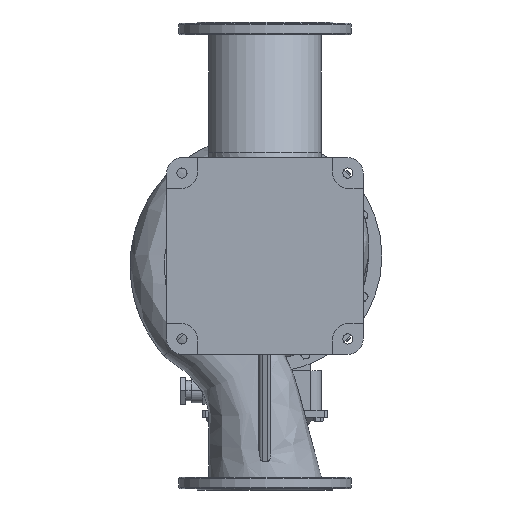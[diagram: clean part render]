
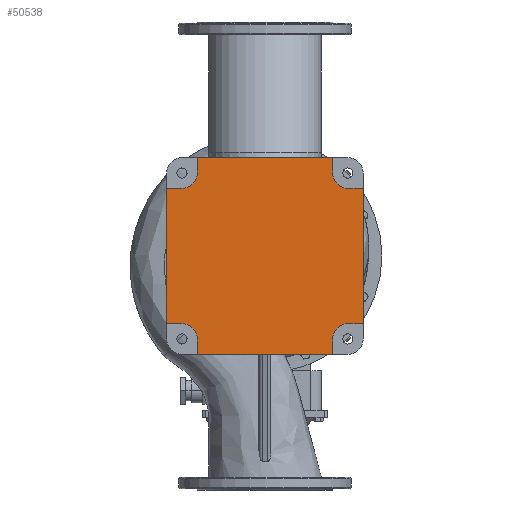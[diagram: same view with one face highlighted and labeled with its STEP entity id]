
A CAD part, front view. The second image highlights one B-rep face of the part: STEP entity #50538.
In plain terms, the highlighted planar face has unit normal (0, -1, 0).
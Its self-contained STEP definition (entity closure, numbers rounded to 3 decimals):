
#628 = ORIENTED_EDGE ( 'NONE', *, *, #48137, .T. ) ;
#1054 = VECTOR ( 'NONE', #72842, 1000. ) ;
#1511 = ORIENTED_EDGE ( 'NONE', *, *, #42875, .T. ) ;
#2208 = DIRECTION ( 'NONE',  ( 1., 0., 0. ) ) ;
#2602 = AXIS2_PLACEMENT_3D ( 'NONE', #38694, #74151, #44284 ) ;
#3545 = CARTESIAN_POINT ( 'NONE',  ( -159., -295., 231. ) ) ;
#3991 = CARTESIAN_POINT ( 'NONE',  ( -195., -295., 195. ) ) ;
#5533 = DIRECTION ( 'NONE',  ( 0., 0., 1. ) ) ;
#5739 = VECTOR ( 'NONE', #18462, 1000. ) ;
#6377 = LINE ( 'NONE', #10080, #1054 ) ;
#6434 = ORIENTED_EDGE ( 'NONE', *, *, #60873, .T. ) ;
#7128 = DIRECTION ( 'NONE',  ( 0., 0., 1. ) ) ;
#8721 = VERTEX_POINT ( 'NONE', #45168 ) ;
#9106 = LINE ( 'NONE', #70019, #22528 ) ;
#10080 = CARTESIAN_POINT ( 'NONE',  ( 159., -295., 195. ) ) ;
#10247 = VERTEX_POINT ( 'NONE', #24062 ) ;
#10409 = CARTESIAN_POINT ( 'NONE',  ( 159., -295., -231. ) ) ;
#10846 = CARTESIAN_POINT ( 'NONE',  ( -159., -295., -231. ) ) ;
#13482 = CARTESIAN_POINT ( 'NONE',  ( -195., -295., -195. ) ) ;
#14079 = CARTESIAN_POINT ( 'NONE',  ( -231., -295., 159. ) ) ;
#15239 = ORIENTED_EDGE ( 'NONE', *, *, #68084, .T. ) ;
#15261 = ORIENTED_EDGE ( 'NONE', *, *, #68279, .T. ) ;
#15402 = VERTEX_POINT ( 'NONE', #10846 ) ;
#15449 = DIRECTION ( 'NONE',  ( -1., 0., 0. ) ) ;
#15549 = DIRECTION ( 'NONE',  ( 0., 1., 0. ) ) ;
#16239 = DIRECTION ( 'NONE',  ( -1., 0., 0. ) ) ;
#16707 = AXIS2_PLACEMENT_3D ( 'NONE', #3991, #34617, #5533 ) ;
#16891 = VECTOR ( 'NONE', #42317, 1000. ) ;
#17966 = VECTOR ( 'NONE', #57354, 1000. ) ;
#18462 = DIRECTION ( 'NONE',  ( 0., 0., 1. ) ) ;
#18543 = AXIS2_PLACEMENT_3D ( 'NONE', #13482, #19433, #7128 ) ;
#18799 = DIRECTION ( 'NONE',  ( 1., 0., 0. ) ) ;
#19433 = DIRECTION ( 'NONE',  ( 0., 1., 0. ) ) ;
#19688 = ORIENTED_EDGE ( 'NONE', *, *, #25675, .T. ) ;
#19831 = VERTEX_POINT ( 'NONE', #29592 ) ;
#20037 = AXIS2_PLACEMENT_3D ( 'NONE', #50620, #15549, #63351 ) ;
#22528 = VECTOR ( 'NONE', #15449, 1000. ) ;
#22805 = ORIENTED_EDGE ( 'NONE', *, *, #60034, .T. ) ;
#23219 = CARTESIAN_POINT ( 'NONE',  ( 159., -295., -195. ) ) ;
#24009 = EDGE_CURVE ( 'NONE', #36432, #34105, #70799, .T. ) ;
#24062 = CARTESIAN_POINT ( 'NONE',  ( -159., -295., -195. ) ) ;
#25158 = CARTESIAN_POINT ( 'NONE',  ( 159., -295., -231. ) ) ;
#25591 = VERTEX_POINT ( 'NONE', #10409 ) ;
#25675 = EDGE_CURVE ( 'NONE', #32633, #19831, #76444, .T. ) ;
#25945 = LINE ( 'NONE', #25158, #46877 ) ;
#26125 = CARTESIAN_POINT ( 'NONE',  ( 231., -295., 159. ) ) ;
#26728 = CIRCLE ( 'NONE', #2602, 36. ) ;
#27483 = DIRECTION ( 'NONE',  ( 0., 0., -1. ) ) ;
#27629 = CIRCLE ( 'NONE', #51786, 36. ) ;
#28239 = CARTESIAN_POINT ( 'NONE',  ( 195., -295., 159. ) ) ;
#29276 = DIRECTION ( 'NONE',  ( 0., 0., -1. ) ) ;
#29592 = CARTESIAN_POINT ( 'NONE',  ( 195., -295., 159. ) ) ;
#29713 = CARTESIAN_POINT ( 'NONE',  ( 195., -295., -195. ) ) ;
#32097 = DIRECTION ( 'NONE',  ( 0., 0., 1. ) ) ;
#32446 = LINE ( 'NONE', #56755, #61608 ) ;
#32633 = VERTEX_POINT ( 'NONE', #26125 ) ;
#33145 = EDGE_LOOP ( 'NONE', ( #628, #15261, #50539, #43152, #66854, #76596, #43779, #19688, #46446, #6434, #44570, #54361, #15239, #22805, #50078, #1511 ) ) ;
#34105 = VERTEX_POINT ( 'NONE', #62538 ) ;
#34617 = DIRECTION ( 'NONE',  ( 0., 1., 0. ) ) ;
#34756 = VECTOR ( 'NONE', #60956, 1000. ) ;
#35325 = EDGE_CURVE ( 'NONE', #48899, #56017, #27629, .T. ) ;
#35635 = VERTEX_POINT ( 'NONE', #14079 ) ;
#35949 = CARTESIAN_POINT ( 'NONE',  ( 159., -295., -195. ) ) ;
#36432 = VERTEX_POINT ( 'NONE', #44902 ) ;
#36672 = CARTESIAN_POINT ( 'NONE',  ( 195., -295., -159. ) ) ;
#38272 = VERTEX_POINT ( 'NONE', #38324 ) ;
#38324 = CARTESIAN_POINT ( 'NONE',  ( -195., -295., 159. ) ) ;
#38410 = CIRCLE ( 'NONE', #16707, 36. ) ;
#38694 = CARTESIAN_POINT ( 'NONE',  ( 195., -295., 195. ) ) ;
#40015 = CARTESIAN_POINT ( 'NONE',  ( 195., -295., -159. ) ) ;
#41619 = CARTESIAN_POINT ( 'NONE',  ( -231., -295., -159. ) ) ;
#42317 = DIRECTION ( 'NONE',  ( 0., 0., 1. ) ) ;
#42875 = EDGE_CURVE ( 'NONE', #69249, #62773, #32446, .T. ) ;
#42986 = EDGE_CURVE ( 'NONE', #25591, #48899, #61427, .T. ) ;
#43152 = ORIENTED_EDGE ( 'NONE', *, *, #42986, .T. ) ;
#43424 = EDGE_CURVE ( 'NONE', #56017, #72304, #72086, .T. ) ;
#43779 = ORIENTED_EDGE ( 'NONE', *, *, #73225, .T. ) ;
#43971 = CIRCLE ( 'NONE', #18543, 36. ) ;
#44284 = DIRECTION ( 'NONE',  ( 0., 0., 1. ) ) ;
#44570 = ORIENTED_EDGE ( 'NONE', *, *, #24009, .T. ) ;
#44902 = CARTESIAN_POINT ( 'NONE',  ( 159., -295., 231. ) ) ;
#45168 = CARTESIAN_POINT ( 'NONE',  ( 159., -295., 195. ) ) ;
#46446 = ORIENTED_EDGE ( 'NONE', *, *, #77460, .T. ) ;
#46877 = VECTOR ( 'NONE', #18799, 1000. ) ;
#47981 = CARTESIAN_POINT ( 'NONE',  ( -159., -295., -195. ) ) ;
#48137 = EDGE_CURVE ( 'NONE', #62773, #10247, #43971, .T. ) ;
#48899 = VERTEX_POINT ( 'NONE', #23219 ) ;
#49434 = LINE ( 'NONE', #73731, #61202 ) ;
#49621 = VECTOR ( 'NONE', #16239, 1000. ) ;
#50078 = ORIENTED_EDGE ( 'NONE', *, *, #68281, .T. ) ;
#50538 = ADVANCED_FACE ( 'NONE', ( #56614 ), #62557, .F. ) ;
#50539 = ORIENTED_EDGE ( 'NONE', *, *, #61910, .T. ) ;
#50620 = CARTESIAN_POINT ( 'NONE',  ( -195., -295., -195. ) ) ;
#51786 = AXIS2_PLACEMENT_3D ( 'NONE', #29713, #68737, #32097 ) ;
#54140 = CARTESIAN_POINT ( 'NONE',  ( -231., -295., -159. ) ) ;
#54361 = ORIENTED_EDGE ( 'NONE', *, *, #67879, .T. ) ;
#54724 = CARTESIAN_POINT ( 'NONE',  ( 231., -295., 159. ) ) ;
#55968 = CARTESIAN_POINT ( 'NONE',  ( -195., -295., -159. ) ) ;
#56017 = VERTEX_POINT ( 'NONE', #40015 ) ;
#56614 = FACE_OUTER_BOUND ( 'NONE', #33145, .T. ) ;
#56755 = CARTESIAN_POINT ( 'NONE',  ( -195., -295., -159. ) ) ;
#57354 = DIRECTION ( 'NONE',  ( -1., 0., 0. ) ) ;
#59941 = DIRECTION ( 'NONE',  ( 0., 0., -1. ) ) ;
#60034 = EDGE_CURVE ( 'NONE', #38272, #35635, #9106, .T. ) ;
#60687 = LINE ( 'NONE', #54724, #5739 ) ;
#60873 = EDGE_CURVE ( 'NONE', #8721, #36432, #6377, .T. ) ;
#60956 = DIRECTION ( 'NONE',  ( 1., 0., 0. ) ) ;
#61202 = VECTOR ( 'NONE', #27483, 1000. ) ;
#61427 = LINE ( 'NONE', #35949, #16891 ) ;
#61608 = VECTOR ( 'NONE', #2208, 1000. ) ;
#61910 = EDGE_CURVE ( 'NONE', #15402, #25591, #25945, .T. ) ;
#62538 = CARTESIAN_POINT ( 'NONE',  ( -159., -295., 231. ) ) ;
#62557 = PLANE ( 'NONE',  #20037 ) ;
#62559 = VECTOR ( 'NONE', #29276, 1000. ) ;
#62773 = VERTEX_POINT ( 'NONE', #55968 ) ;
#63351 = DIRECTION ( 'NONE',  ( 1., 0., 0. ) ) ;
#66372 = VECTOR ( 'NONE', #59941, 1000. ) ;
#66854 = ORIENTED_EDGE ( 'NONE', *, *, #35325, .T. ) ;
#67879 = EDGE_CURVE ( 'NONE', #34105, #73737, #49434, .T. ) ;
#68084 = EDGE_CURVE ( 'NONE', #73737, #38272, #38410, .T. ) ;
#68279 = EDGE_CURVE ( 'NONE', #10247, #15402, #77082, .T. ) ;
#68281 = EDGE_CURVE ( 'NONE', #35635, #69249, #72277, .T. ) ;
#68737 = DIRECTION ( 'NONE',  ( 0., 1., 0. ) ) ;
#69249 = VERTEX_POINT ( 'NONE', #54140 ) ;
#70019 = CARTESIAN_POINT ( 'NONE',  ( -195., -295., 159. ) ) ;
#70492 = CARTESIAN_POINT ( 'NONE',  ( -159., -295., 195. ) ) ;
#70799 = LINE ( 'NONE', #3545, #49621 ) ;
#72086 = LINE ( 'NONE', #36672, #34756 ) ;
#72277 = LINE ( 'NONE', #41619, #62559 ) ;
#72304 = VERTEX_POINT ( 'NONE', #78588 ) ;
#72842 = DIRECTION ( 'NONE',  ( 0., 0., 1. ) ) ;
#73225 = EDGE_CURVE ( 'NONE', #72304, #32633, #60687, .T. ) ;
#73731 = CARTESIAN_POINT ( 'NONE',  ( -159., -295., 195. ) ) ;
#73737 = VERTEX_POINT ( 'NONE', #70492 ) ;
#74151 = DIRECTION ( 'NONE',  ( 0., 1., 0. ) ) ;
#76444 = LINE ( 'NONE', #28239, #17966 ) ;
#76596 = ORIENTED_EDGE ( 'NONE', *, *, #43424, .T. ) ;
#77082 = LINE ( 'NONE', #47981, #66372 ) ;
#77460 = EDGE_CURVE ( 'NONE', #19831, #8721, #26728, .T. ) ;
#78588 = CARTESIAN_POINT ( 'NONE',  ( 231., -295., -159. ) ) ;
